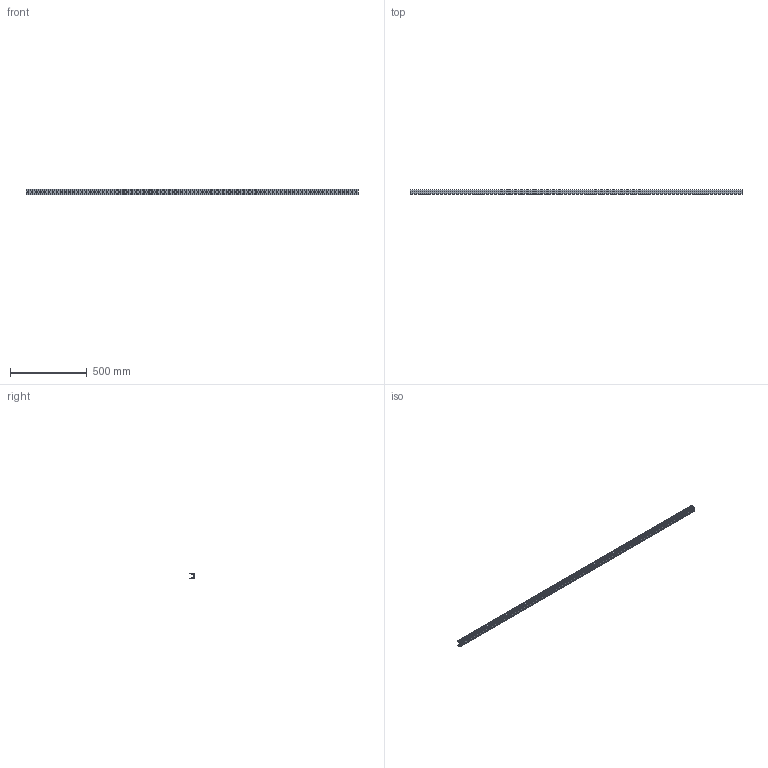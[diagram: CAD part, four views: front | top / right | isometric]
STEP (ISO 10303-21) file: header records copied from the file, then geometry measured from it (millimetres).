
FILE_DESCRIPTION( ( 'STEP AP203' ), '1' );
FILE_NAME( 'C:/Temp/Ganter_Step_05_03_2020/data/3_8/gn_646_3/Carrier profile GN 646.3-2160-B (15).stp', '2020-03-12T15:24:29', ( 'License CC BY-ND 4.0' ), ( 'CADENAS' ), ' ', 'PARTsolutions', ' ' );
FILE_SCHEMA( ( 'CONFIG_CONTROL_DESIGN' ) );
Length unit declared in the file: millimetre
Products named in the file (1): _Carrier profile GN 646.3-2160-B (15)
Bounding box: 2160 x 26.5 x 36 mm (x, y, z)
Volume: 356167.4 mm3; surface area: 450017 mm2
Topology: 1 solids, 1 shells, 432 faces, 1290 edges, 860 vertices
Faces by surface type: plane 230, cylinder 202
Entity records: 14982 total; most frequent: CARTESIAN_POINT 2583, ORIENTED_EDGE 2580, DIRECTION 2560, EDGE_CURVE 1290, LINE 886, VECTOR 886, VERTEX_POINT 860, AXIS2_PLACEMENT_3D 837
